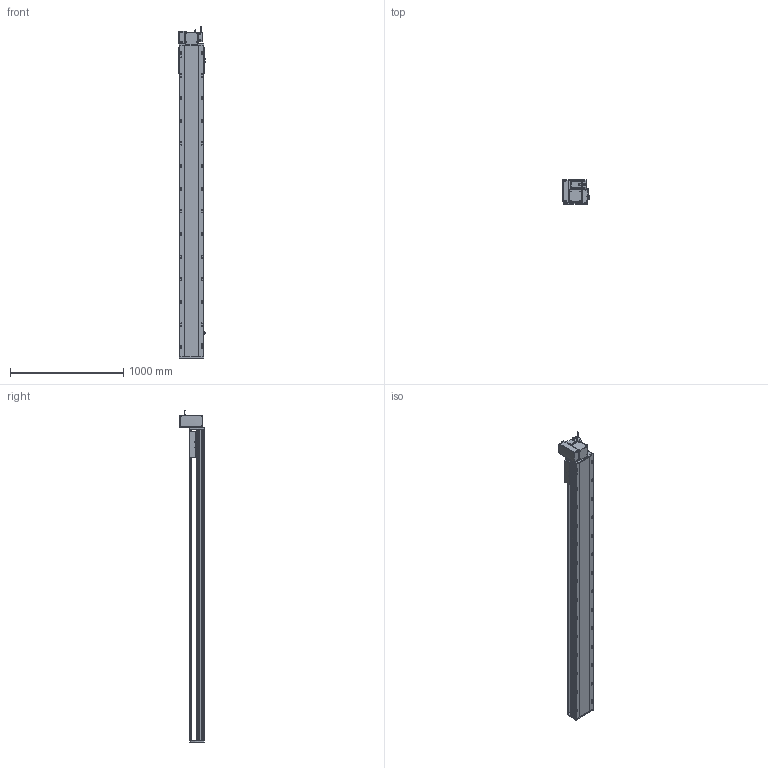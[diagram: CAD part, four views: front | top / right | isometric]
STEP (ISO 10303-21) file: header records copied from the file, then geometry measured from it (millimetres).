
FILE_DESCRIPTION (( 'STEP AP214' ), '1' );
FILE_NAME ('RTB22S-XX-2400-LW-M75-C4.STEP', '2025-12-12T06:03:05', ( '' ), ( '' ), 'SwSTEP 2.0', 'SolidWorks 2018', '' );
FILE_SCHEMA (( 'AUTOMOTIVE_DESIGN' ));
Length unit declared in the file: millimetre
Products named in the file (14): RTB22S-LW-々湍釱蚾饜^RTB22S-XX-XX-LW-M75-C4; RTB22S-GY-014--々湍釱^RTB22S-LW-々湍釱蚾饜_RTB22S-XX-XX-LW-M75-C4; RTB22S-XX-2400-LW-M75-C4; OMRON EE-SX672 传感器^RTB22S-XX-XX-LW-M75-C4; RTB22S-GY-008-M75--萇儂啣^RTB22S-LW-々湍釱蚾饜_RTB22S-XX-XX-LW-M75-C4; RTB22S-L-004賑釱^RTB22S-XX-XX-LW-M75-C4; RTB22S-GY-017P^RTB22S-LW-々湍釱蚾饜_RTB22S-XX-XX-LW-M75-C4; RTB22S-GY-001耜裔^RTB22S-XX-XX-LW-M75-C4; RTB22S-GY-007奻裔^RTB22S-XX-XX-LW-M75-C4; RTB22S-L-011菁釱^RTB22S-XX-XX-LW-M75-C4; RTB22S-GY-005P^RTB22S-LW-々湍釱蚾饜_RTB22S-XX-XX-LW-M75-C4; 750W萇儂^RTB22S-XX-XX-LW-M75-C4; RTB22S-GY-018P^RTB22S-LW-々湍釱蚾饜_RTB22S-XX-XX-LW-M75-C4; RTH22-GY-013外置感应片^RTB22S-XX-XX-LW-M75-C4
Assembly tree (16 placements, depth 3):
  RTB22S-XX-2400-LW-M75-C4
    RTB22S-L-011菁釱^RTB22S-XX-XX-LW-M75-C4
    RTB22S-GY-001耜裔^RTB22S-XX-XX-LW-M75-C4
    750W萇儂^RTB22S-XX-XX-LW-M75-C4
    RTB22S-GY-007奻裔^RTB22S-XX-XX-LW-M75-C4
    RTB22S-L-004賑釱^RTB22S-XX-XX-LW-M75-C4
    RTH22-GY-013外置感应片^RTB22S-XX-XX-LW-M75-C4
    OMRON EE-SX672 传感器^RTB22S-XX-XX-LW-M75-C4  x3
    RTB22S-LW-々湍釱蚾饜^RTB22S-XX-XX-LW-M75-C4
      RTB22S-GY-014--々湍釱^RTB22S-LW-々湍釱蚾饜_RTB22S-XX-XX-LW-M75-C4
      RTB22S-GY-017P^RTB22S-LW-々湍釱蚾饜_RTB22S-XX-XX-LW-M75-C4  x2
      RTB22S-GY-005P^RTB22S-LW-々湍釱蚾饜_RTB22S-XX-XX-LW-M75-C4
      RTB22S-GY-008-M75--萇儂啣^RTB22S-LW-々湍釱蚾饜_RTB22S-XX-XX-LW-M75-C4
      RTB22S-GY-018P^RTB22S-LW-々湍釱蚾饜_RTB22S-XX-XX-LW-M75-C4
Bounding box: 238.5 x 215.5 x 2932.2 mm (x, y, z)
Volume: 37602862.9 mm3; surface area: 3846181.1 mm2
Topology: 15 solids, 15 shells, 2091 faces, 5686 edges, 3632 vertices
Faces by surface type: plane 927, cylinder 694, bspline 296, cone 162, sphere 8, torus 4
Entity records: 56716 total; most frequent: CARTESIAN_POINT 16060, ORIENTED_EDGE 8112, DIRECTION 7910, EDGE_CURVE 4056, AXIS2_PLACEMENT_3D 2830, VERTEX_POINT 2636, VECTOR 2250, LINE 2250
